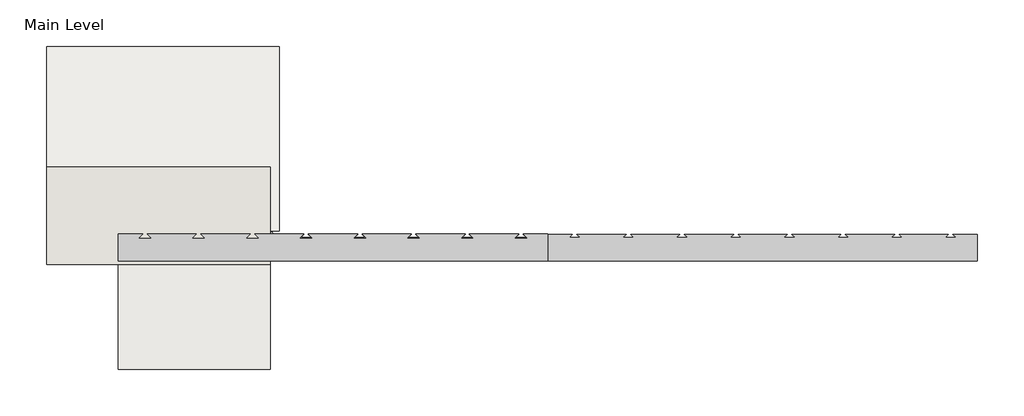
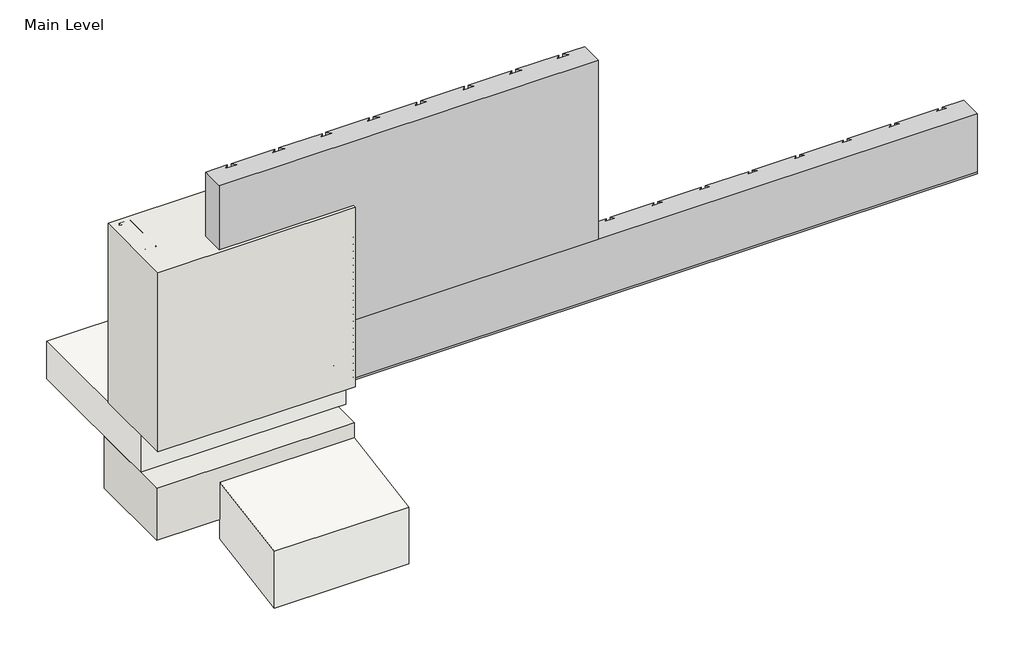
# One storey, incomplete: 12 proxies, 2 slabs, 2 walls.
"""IFC4 building model written with IfcOpenShell, lengths in millimetres."""

from ifc_helpers import new_model, si_unit, frame, origin, origin_with_axes, place, context, project, spatial, polyline, outline, extrude, transform, mapped, element, save
from components import generic_models_31547c53, generic_models_0bbfdc8f, generic_models_1e1ad44f, generic_models_7dd17a53, generic_models_441de798, generic_models_e46152ee, generic_models_9d0e7a2a, proxy_998bcb27, proxy_b027fc18, wood_blocking_c9818c35

model = new_model("IFC4")

# Units and contexts
model_context = context("Model", 3, world=origin())
ifc_project = project(units=[si_unit("LENGTHUNIT", "METRE", prefix="MILLI")], contexts=[model_context])

# Site, building, storey
site = spatial("IfcSite", under=ifc_project)
building = spatial("IfcBuilding", under=site)
storey = spatial("IfcBuildingStorey", under=building, Name="Main Level", Elevation=0.0)

# Proxies
placement = place(None, origin())
generic_models_shape = generic_models_31547c53(model_context)
element("IfcBuildingElementProxy", 1, Name="Durabond Generic Model Sealant Vent : Durabond Generic Model Sealant Vent", ObjectType="Durabond Generic Model Sealant Vent : Durabond Generic Model Sealant Vent", at=placement, inside=storey, context=model_context, shape_type="MappedRepresentation", body=[
    mapped(generic_models_shape, transform((26865.4101773, 546.8432813, 8.5594788), x_axis=(1.0, 0.0, 0.0), y_axis=(0.0, 0.08715574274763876, -0.9961946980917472), z_axis=(0.0, 0.9961946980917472, 0.08715574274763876))),
])
generic_models_2_shape = generic_models_0bbfdc8f(model_context)
generic_models_3_shape = generic_models_1e1ad44f(model_context)
generic_models_4_shape = generic_models_7dd17a53(model_context)
generic_models_5_shape = generic_models_441de798(model_context)
element("IfcBuildingElementProxy", 2, Name="CRAi Generic Model Mesh Piece Face Based : CRAi Generic Model Mesh Piece Face Based", ObjectType="CRAi Generic Model Mesh Piece Face Based : CRAi Generic Model Mesh Piece Face Based", at=placement, inside=storey, context=model_context, shape_type="MappedRepresentation", body=[
    mapped(generic_models_2_shape, transform((26933.6726773, 541.9066297, 261.6963215), x_axis=(-1.0, 0.0, 0.0), y_axis=(0.0, 0.0, -1.0), z_axis=(0.0, -1.0, 0.0))),
    mapped(generic_models_3_shape, transform((26933.6726773, 541.9066297, 261.6963215), x_axis=(-1.0, 0.0, 0.0), y_axis=(0.0, 0.0, -1.0), z_axis=(0.0, -1.0, 0.0))),
    mapped(generic_models_4_shape, transform((26933.6726773, 541.9066297, 261.6963215), x_axis=(-1.0, 0.0, 0.0), y_axis=(0.0, 0.0, -1.0), z_axis=(0.0, -1.0, 0.0))),
    mapped(generic_models_5_shape, transform((26933.6726773, 541.9066297, 261.6963215), x_axis=(-1.0, 0.0, 0.0), y_axis=(0.0, 0.0, -1.0), z_axis=(0.0, -1.0, 0.0))),
])
generic_models_6_shape = generic_models_e46152ee(model_context)
element("IfcBuildingElementProxy", 3, Name="Durabond Generic Model Insulation Adhesive Flat : Durabond Generic Model Insulation Adhesive Flat", ObjectType="Durabond Generic Model Insulation Adhesive Flat : Durabond Generic Model Insulation Adhesive Flat", at=placement, inside=storey, context=model_context, shape_type="MappedRepresentation", body=[
    mapped(generic_models_6_shape, transform((26705.0726773, 627.6316297, 76.2), x_axis=(1.0, 0.0, 0.0), y_axis=(0.0, 1.0, 0.0), z_axis=(0.0, 0.0, 1.0))),
])
element("IfcBuildingElementProxy", 4, Name="Durabond Generic Model Insulation Adhesive Flat : Durabond Generic Model Insulation Adhesive Flat", ObjectType="Durabond Generic Model Insulation Adhesive Flat : Durabond Generic Model Insulation Adhesive Flat", at=placement, inside=storey, context=model_context, shape_type="MappedRepresentation", body=[
    mapped(generic_models_6_shape, transform((26781.2726773, 627.6316297, 76.2), x_axis=(1.0, 0.0, 0.0), y_axis=(0.0, 1.0, 0.0), z_axis=(0.0, 0.0, 1.0))),
])
element("IfcBuildingElementProxy", 5, Name="Durabond Generic Model Insulation Adhesive Flat : Durabond Generic Model Insulation Adhesive Flat", ObjectType="Durabond Generic Model Insulation Adhesive Flat : Durabond Generic Model Insulation Adhesive Flat", at=placement, inside=storey, context=model_context, shape_type="MappedRepresentation", body=[
    mapped(generic_models_6_shape, transform((26857.4726773, 627.6316297, 76.2), x_axis=(1.0, 0.0, 0.0), y_axis=(0.0, 1.0, 0.0), z_axis=(0.0, 0.0, 1.0))),
])
element("IfcBuildingElementProxy", 6, Name="Durabond Generic Model Insulation Adhesive Flat : Durabond Generic Model Insulation Adhesive Flat", ObjectType="Durabond Generic Model Insulation Adhesive Flat : Durabond Generic Model Insulation Adhesive Flat", at=placement, inside=storey, context=model_context, shape_type="MappedRepresentation", body=[
    mapped(generic_models_6_shape, transform((26933.6726773, 627.6316297, 76.2), x_axis=(1.0, 0.0, 0.0), y_axis=(0.0, 1.0, 0.0), z_axis=(0.0, 0.0, 1.0))),
])
element("IfcBuildingElementProxy", 7, Name="Durabond Generic Model Insulation Adhesive Flat : Durabond Generic Model Insulation Adhesive Flat", ObjectType="Durabond Generic Model Insulation Adhesive Flat : Durabond Generic Model Insulation Adhesive Flat", at=placement, inside=storey, context=model_context, shape_type="MappedRepresentation", body=[
    mapped(generic_models_6_shape, transform((27009.8726773, 627.6316297, 76.2), x_axis=(1.0, 0.0, 0.0), y_axis=(0.0, 1.0, 0.0), z_axis=(0.0, 0.0, 1.0))),
])
element("IfcBuildingElementProxy", 8, Name="Durabond Generic Model Insulation Adhesive Flat : Durabond Generic Model Insulation Adhesive Flat", ObjectType="Durabond Generic Model Insulation Adhesive Flat : Durabond Generic Model Insulation Adhesive Flat", at=placement, inside=storey, context=model_context, shape_type="MappedRepresentation", body=[
    mapped(generic_models_6_shape, transform((27086.0726773, 627.6316297, 76.2), x_axis=(1.0, 0.0, 0.0), y_axis=(0.0, 1.0, 0.0), z_axis=(0.0, 0.0, 1.0))),
])
generic_models_7_shape = generic_models_9d0e7a2a(model_context)
element("IfcBuildingElementProxy", 9, Name="CRAi Generic Model Metal Stud Array : CRAi Generic Model Metal Stud Array", ObjectType="CRAi Generic Model Metal Stud Array : CRAi Generic Model Metal Stud Array", at=placement, inside=storey, context=model_context, shape_type="MappedRepresentation", body=[
    mapped(generic_models_7_shape, transform((26692.3726773, 726.0566297, 6.35), x_axis=(-1.0, 0.0, 0.0), y_axis=(0.0, -1.0, 0.0), z_axis=(0.0, 0.0, 1.0))),
])
proxy_shape = proxy_998bcb27(model_context)
element("IfcBuildingElementProxy", 10, Name="Durabond Generic Model Flexlite Insulation Board : 3\"", ObjectType="Durabond Generic Model Flexlite Insulation Board : 3\"", at=placement, inside=storey, context=model_context, shape_type="MappedRepresentation", body=[
    mapped(proxy_shape, transform((27276.5726773, 624.4566297, 523.392643), x_axis=(1.0, 0.0, 0.0), y_axis=(0.0, 0.0, 1.0), z_axis=(0.0, -1.0, 0.0))),
])
proxy_2_shape = proxy_b027fc18(model_context)
element("IfcBuildingElementProxy", 11, Name="Durabond Generic Model Flexlite Vent Board : 3\"", ObjectType="Durabond Generic Model Flexlite Vent Board : 3\"", at=placement, inside=storey, context=model_context, shape_type="MappedRepresentation", body=[
    mapped(proxy_2_shape, transform((27886.1726773, 624.4566297, 116.992643), x_axis=(1.0, 0.0, 0.0), y_axis=(0.0, 0.0, 1.0), z_axis=(0.0, -1.0, 0.0))),
])
wood_blocking_shape = wood_blocking_c9818c35(model_context)
element("IfcBuildingElementProxy", 12, Name="CRAi Generic Model Line Based Metal Framing Track : Wood Blocking", ObjectType="CRAi Generic Model Line Based Metal Framing Track : Wood Blocking", at=placement, inside=storey, context=model_context, shape_type="MappedRepresentation", body=[
    mapped(wood_blocking_shape, transform((26489.1726773, 649.8566297, 0.0), x_axis=(1.0, 0.0, 0.0), y_axis=(0.0, 1.0, 0.0), z_axis=(0.0, 0.0, 1.0))),
])

# Slabs
element("IfcSlab", 13, ObjectType="CRAi Concrete Floor - 5\"", at=placement, inside=storey, context=model_context, shape_type="SweptSolid", body=[
    extrude(outline(polyline([(27124.1726773, 633.9816297), (26463.7726773, 633.9816297), (26463.7726773, 1157.8566297), (27124.1726773, 1157.8566297), (27124.1726773, 633.9816297)])), frame((0.0, 0.0, -127.0), z_axis=(0.0, 0.0, 1.0), x_axis=(1.0, 0.0, 0.0)), (0.0, 0.0, 1.0), 127.0),
])
element("IfcSlab", 14, ObjectType="dIRT", at=placement, inside=storey, context=model_context, shape_type="SweptSolid", body=[
    extrude(outline(polyline([(545.0816297, -370.9277103), (240.2816297, -421.7277103), (240.2816297, -228.6), (545.0816297, -177.8), (545.0816297, -370.9277103)])), frame((26666.9726773, 0.0, 0.0), z_axis=(1.0, 0.0, 0.0), x_axis=(0.0, 1.0, 0.0)), (0.0, 0.0, 1.0), 431.8),
])

# Walls
element("IfcWall", 15, ObjectType="189mm (7.5”) EIFS Field Applied on Mtl. Stud Layer - 50mm Grooved Insulation Board Metal Stud Wall (AirStop)", at=placement, inside=storey, context=model_context, shape_type="SweptSolid", body=[
    extrude(outline(polyline([(27098.7726773, 538.7316297), (26463.7726773, 538.7316297), (26463.7726773, 814.9566297), (27098.7726773, 814.9566297), (27098.7726773, 538.7316297)])), origin_with_axes(), (0.0, 0.0, 1.0), 609.6),
])
element("IfcWall", 16, ObjectType="CRAi Insulated Foundation", at=placement, inside=storey, context=model_context, shape_type="SweptSolid", body=[
    extrude(outline(polyline([(27098.7726773, 545.0816297), (26463.7726773, 545.0816297), (26463.7726773, 837.1816297), (27098.7726773, 837.1816297), (27098.7726773, 545.0816297)])), frame((0.0, 0.0, -304.8), z_axis=(0.0, 0.0, 1.0), x_axis=(1.0, 0.0, 0.0)), (0.0, 0.0, 1.0), 177.8),
])

save(model, "model.ifc")
